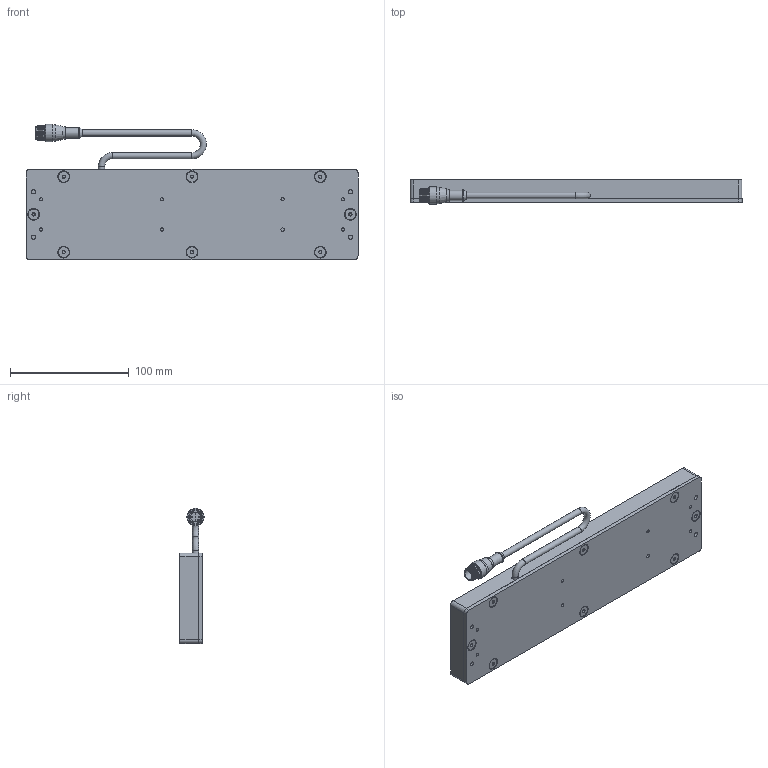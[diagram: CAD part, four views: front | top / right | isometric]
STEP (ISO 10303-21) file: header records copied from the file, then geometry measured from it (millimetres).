
FILE_DESCRIPTION (( 'STEP AP214' ), '1' );
FILE_NAME ('SBL210-XXX-WDC.STEP', '2026-04-17T16:40:31', ( '' ), ( '' ), 'SwSTEP 2.0', 'SolidWorks 2025', '' );
FILE_SCHEMA (( 'AUTOMOTIVE_DESIGN' ));
Length unit declared in the file: inch
Products named in the file (9): Housing SBL210; WD-SBLYYXX_2x10; MC Pigtail 24; SBL210-XXX-WDC; BackPlate BLYYXX_0210; M12 Connector 4,5 and 8 pin_RS4.5T; SC Pigtail Complete 18_5pin; Hex Standoff X.X x 8-32_0.375; 8-32 x 0.375 FHCS (92210A192)_92210A192
Assembly tree (22 placements, depth 3):
  SBL210-XXX-WDC
    Housing SBL210
    BackPlate BLYYXX_0210
    SC Pigtail Complete 18_5pin
      MC Pigtail 24
      M12 Connector 4,5 and 8 pin_RS4.5T
    WD-SBLYYXX_2x10
    Hex Standoff X.X x 8-32_0.375  x8
    8-32 x 0.375 FHCS (92210A192)_92210A192  x8
Bounding box: 279.4 x 20.61 x 113.99 mm (x, y, z)
Volume: 240635 mm3; surface area: 137303.1 mm2
Topology: 21 solids, 21 shells, 500 faces, 1124 edges, 683 vertices
Faces by surface type: plane 195, cone 139, cylinder 116, bspline 24, torus 21, sphere 5
Full cylindrical faces by diameter (mm): 0.762 x5, 2.705 x8, 3.454 x12, 4.496 x16, 5.207 x3, 6.604 x4, 6.858 x8, 8.382 x1, 8.636 x1, 9.119 x8, 10.16 x1, 10.541 x1, 11.938 x1, 13.716 x2, 14.732 x1
Entity records: 9566 total; most frequent: CARTESIAN_POINT 3033, DIRECTION 1128, ORIENTED_EDGE 832, AXIS2_PLACEMENT_3D 489, EDGE_LOOP 426, EDGE_CURVE 416, VERTEX_POINT 322, FACE_OUTER_BOUND 303
